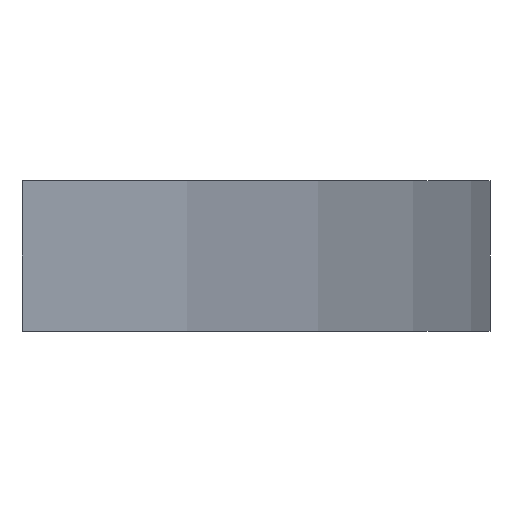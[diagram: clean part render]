
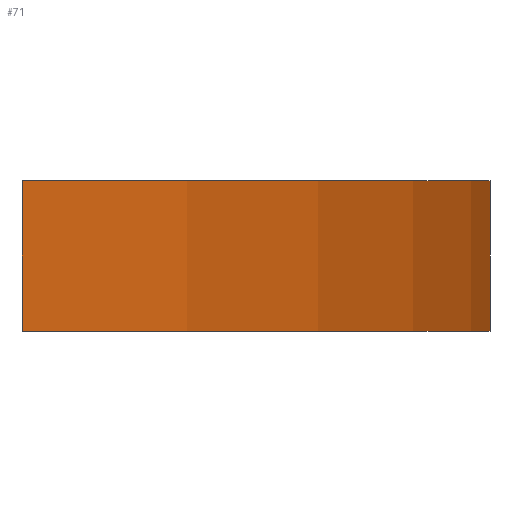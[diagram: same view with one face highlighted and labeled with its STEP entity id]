
A CAD part, left-side view. The second image highlights one B-rep face of the part: STEP entity #71.
In plain terms, the highlighted cylindrical face has radius 147.5 mm (diameter 295 mm), a partial arc.
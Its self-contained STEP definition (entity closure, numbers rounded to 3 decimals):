
#71 = ADVANCED_FACE( '', ( #132 ), #133, .T. );
#132 = FACE_OUTER_BOUND( '', #180, .T. );
#133 = CYLINDRICAL_SURFACE( '', #181, 147.5 );
#180 = EDGE_LOOP( '', ( #239, #240, #241, #242 ) );
#181 = AXIS2_PLACEMENT_3D( '', #243, #244, #245 );
#239 = ORIENTED_EDGE( '', *, *, #281, .T. );
#240 = ORIENTED_EDGE( '', *, *, #268, .F. );
#241 = ORIENTED_EDGE( '', *, *, #285, .F. );
#242 = ORIENTED_EDGE( '', *, *, #286, .T. );
#243 = CARTESIAN_POINT( '', ( 80., 116.473, 5. ) );
#244 = DIRECTION( '', ( 0., 0., 1. ) );
#245 = DIRECTION( '', ( -1., 0., 0. ) );
#268 = EDGE_CURVE( '', #296, #291, #298, .T. );
#281 = EDGE_CURVE( '', #316, #291, #318, .T. );
#285 = EDGE_CURVE( '', #322, #296, #323, .T. );
#286 = EDGE_CURVE( '', #322, #316, #324, .T. );
#291 = VERTEX_POINT( '', #329 );
#296 = VERTEX_POINT( '', #336 );
#298 = LINE( '', #339, #340 );
#316 = VERTEX_POINT( '', #359 );
#318 = CIRCLE( '', #362, 147.5 );
#322 = VERTEX_POINT( '', #366 );
#323 = CIRCLE( '', #367, 147.5 );
#324 = LINE( '', #368, #369 );
#329 = CARTESIAN_POINT( '', ( 170.5, 0., -5. ) );
#336 = CARTESIAN_POINT( '', ( 170.5, 0., 5. ) );
#339 = CARTESIAN_POINT( '', ( 170.5, 0., 5. ) );
#340 = VECTOR( '', #377, 1000. );
#359 = CARTESIAN_POINT( '', ( -10.5, 0., -5. ) );
#362 = AXIS2_PLACEMENT_3D( '', #398, #399, #400 );
#366 = CARTESIAN_POINT( '', ( -10.5, 0., 5. ) );
#367 = AXIS2_PLACEMENT_3D( '', #401, #402, #403 );
#368 = CARTESIAN_POINT( '', ( -10.5, 0., 5. ) );
#369 = VECTOR( '', #404, 1000. );
#377 = DIRECTION( '', ( 0., 0., -1. ) );
#398 = CARTESIAN_POINT( '', ( 80., 116.473, -5. ) );
#399 = DIRECTION( '', ( 0., 0., 1. ) );
#400 = DIRECTION( '', ( 1., 0., 0. ) );
#401 = CARTESIAN_POINT( '', ( 80., 116.473, 5. ) );
#402 = DIRECTION( '', ( 0., 0., 1. ) );
#403 = DIRECTION( '', ( 1., 0., 0. ) );
#404 = DIRECTION( '', ( 0., 0., -1. ) );
